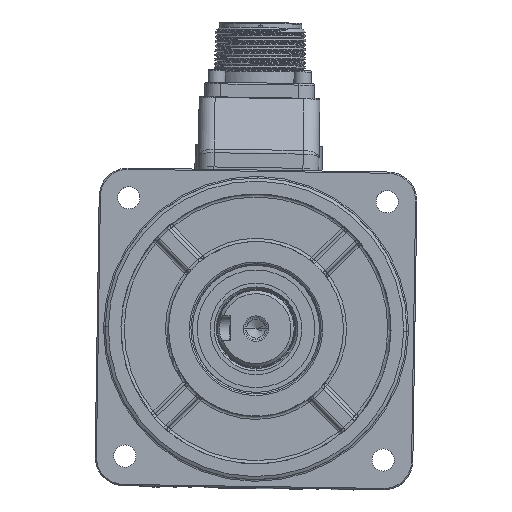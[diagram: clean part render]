
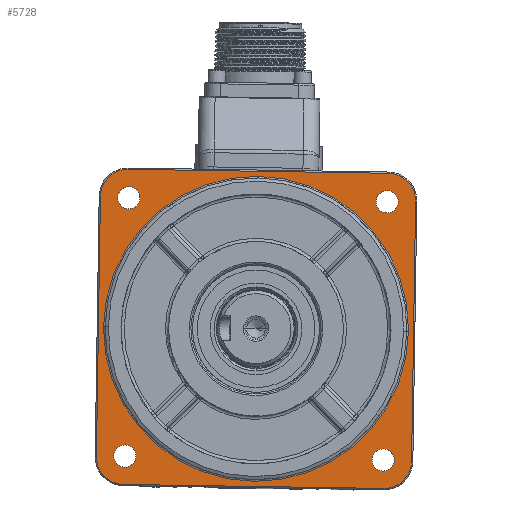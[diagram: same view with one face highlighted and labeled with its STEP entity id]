
A CAD part, top view. The second image highlights one B-rep face of the part: STEP entity #5728.
In plain terms, the highlighted planar face has unit normal (0, 0, 1) as drawn and (0, 1, 0) by its records, which use the part's own axes.
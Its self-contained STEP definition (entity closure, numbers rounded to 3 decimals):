
#165=CARTESIAN_POINT('',(-41.,0.,-41.));
#166=DIRECTION('',(0.,-1.,0.));
#167=DIRECTION('',(-1.,0.,0.));
#168=AXIS2_PLACEMENT_3D('',#165,#166,#167);
#170=DIRECTION('',(1.,0.,0.));
#171=VECTOR('',#170,82.);
#172=CARTESIAN_POINT('',(-41.,0.,
-49.6));
#173=LINE('',#172,#171);
#174=CARTESIAN_POINT('',(41.,0.,-41.));
#175=DIRECTION('',(0.,-1.,0.));
#176=DIRECTION('',(0.,0.,-1.));
#177=AXIS2_PLACEMENT_3D('',#174,#175,#176);
#179=DIRECTION('',(0.,0.,1.));
#180=VECTOR('',#179,82.);
#181=CARTESIAN_POINT('',(49.6,0.,
-41.));
#182=LINE('',#181,#180);
#183=CARTESIAN_POINT('',(41.,0.,41.));
#184=DIRECTION('',(0.,-1.,0.));
#185=DIRECTION('',(1.,0.,0.));
#186=AXIS2_PLACEMENT_3D('',#183,#184,#185);
#188=DIRECTION('',(-1.,0.,0.));
#189=VECTOR('',#188,82.);
#190=CARTESIAN_POINT('',(41.,0.,49.6));
#191=LINE('',#190,#189);
#192=CARTESIAN_POINT('',(-41.,0.,41.));
#193=DIRECTION('',(0.,-1.,0.));
#194=DIRECTION('',(0.,0.,1.));
#195=AXIS2_PLACEMENT_3D('',#192,#193,#194);
#197=DIRECTION('',(0.,0.,-1.));
#198=VECTOR('',#197,82.);
#199=CARTESIAN_POINT('',(-49.6,0.,
41.));
#200=LINE('',#199,#198);
#201=CARTESIAN_POINT('',(-40.659,0.,-40.659));
#202=DIRECTION('',(0.,1.,0.));
#203=DIRECTION('',(0.,0.,1.));
#204=AXIS2_PLACEMENT_3D('',#201,#202,#203);
#206=CARTESIAN_POINT('',(-40.659,0.,-40.659));
#207=DIRECTION('',(0.,1.,0.));
#208=DIRECTION('',(0.,0.,-1.));
#209=AXIS2_PLACEMENT_3D('',#206,#207,#208);
#211=CARTESIAN_POINT('',(-40.659,0.,40.659));
#212=DIRECTION('',(0.,1.,0.));
#213=DIRECTION('',(1.,0.,0.));
#214=AXIS2_PLACEMENT_3D('',#211,#212,#213);
#216=CARTESIAN_POINT('',(-40.659,0.,40.659));
#217=DIRECTION('',(0.,1.,0.));
#218=DIRECTION('',(-1.,0.,0.));
#219=AXIS2_PLACEMENT_3D('',#216,#217,#218);
#221=CARTESIAN_POINT('',(40.659,0.,40.659));
#222=DIRECTION('',(0.,1.,0.));
#223=DIRECTION('',(0.,0.,-1.));
#224=AXIS2_PLACEMENT_3D('',#221,#222,#223);
#226=CARTESIAN_POINT('',(40.659,0.,40.659));
#227=DIRECTION('',(0.,1.,0.));
#228=DIRECTION('',(0.,0.,1.));
#229=AXIS2_PLACEMENT_3D('',#226,#227,#228);
#231=CARTESIAN_POINT('',(0.,0.,0.));
#232=DIRECTION('',(0.,1.,0.));
#233=DIRECTION('',(-1.,0.,0.));
#234=AXIS2_PLACEMENT_3D('',#231,#232,#233);
#236=CARTESIAN_POINT('',(0.,0.,0.));
#237=DIRECTION('',(0.,1.,0.));
#238=DIRECTION('',(-1.,0.,0.006));
#239=AXIS2_PLACEMENT_3D('',#236,#237,#238);
#241=CARTESIAN_POINT('',(0.,0.,0.));
#242=DIRECTION('',(0.,1.,0.));
#243=DIRECTION('',(1.,0.,0.));
#244=AXIS2_PLACEMENT_3D('',#241,#242,#243);
#246=CARTESIAN_POINT('',(0.,0.,0.));
#247=DIRECTION('',(0.,1.,0.));
#248=DIRECTION('',(1.,0.,-0.006));
#249=AXIS2_PLACEMENT_3D('',#246,#247,#248);
#251=CARTESIAN_POINT('',(40.659,0.,-40.659));
#252=DIRECTION('',(0.,1.,0.));
#253=DIRECTION('',(-1.,0.,0.));
#254=AXIS2_PLACEMENT_3D('',#251,#252,#253);
#256=CARTESIAN_POINT('',(40.659,0.,-40.659));
#257=DIRECTION('',(0.,1.,0.));
#258=DIRECTION('',(1.,0.,0.));
#259=AXIS2_PLACEMENT_3D('',#256,#257,#258);
#5154=CARTESIAN_POINT('',(41.,0.,
49.6));
#5155=CARTESIAN_POINT('',(-41.,0.,
49.6));
#5156=VERTEX_POINT('',#5154);
#5157=VERTEX_POINT('',#5155);
#5158=CARTESIAN_POINT('',(-49.6,0.,-41.));
#5159=CARTESIAN_POINT('',(-41.,0.,-49.6));
#5160=VERTEX_POINT('',#5158);
#5161=VERTEX_POINT('',#5159);
#5162=CARTESIAN_POINT('',(41.,0.,
-49.6));
#5163=VERTEX_POINT('',#5162);
#5164=CARTESIAN_POINT('',(49.6,0.,-41.));
#5165=VERTEX_POINT('',#5164);
#5166=CARTESIAN_POINT('',(49.6,0.,41.));
#5167=VERTEX_POINT('',#5166);
#5168=CARTESIAN_POINT('',(-49.6,0.,41.));
#5169=VERTEX_POINT('',#5168);
#5170=CARTESIAN_POINT('',(-40.659,0.,-37.159));
#5171=CARTESIAN_POINT('',(-40.659,0.,-44.159));
#5172=VERTEX_POINT('',#5170);
#5173=VERTEX_POINT('',#5171);
#5174=CARTESIAN_POINT('',(-37.159,0.,40.659));
#5175=CARTESIAN_POINT('',(-44.159,0.,40.659));
#5176=VERTEX_POINT('',#5174);
#5177=VERTEX_POINT('',#5175);
#5178=CARTESIAN_POINT('',(40.659,0.,37.159));
#5179=CARTESIAN_POINT('',(40.659,0.,44.159));
#5180=VERTEX_POINT('',#5178);
#5181=VERTEX_POINT('',#5179);
#5182=CARTESIAN_POINT('',(-47.999,0.,0.3));
#5183=CARTESIAN_POINT('',(48.,0.,0.));
#5184=VERTEX_POINT('',#5182);
#5185=VERTEX_POINT('',#5183);
#5186=CARTESIAN_POINT('',(-48.,0.,0.));
#5187=VERTEX_POINT('',#5186);
#5188=CARTESIAN_POINT('',(47.999,0.,-0.3));
#5189=VERTEX_POINT('',#5188);
#5190=CARTESIAN_POINT('',(37.159,0.,-40.659));
#5191=CARTESIAN_POINT('',(44.159,0.,-40.659));
#5192=VERTEX_POINT('',#5190);
#5193=VERTEX_POINT('',#5191);
#5675=CARTESIAN_POINT('',(0.,0.,0.));
#5676=DIRECTION('',(0.,-1.,0.));
#5677=DIRECTION('',(-1.,0.,0.));
#5678=AXIS2_PLACEMENT_3D('',#5675,#5676,#5677);
#5679=PLANE('',#5678);
#5681=ORIENTED_EDGE('',*,*,#5680,.T.);
#5683=ORIENTED_EDGE('',*,*,#5682,.T.);
#5685=ORIENTED_EDGE('',*,*,#5684,.T.);
#5687=ORIENTED_EDGE('',*,*,#5686,.T.);
#5689=ORIENTED_EDGE('',*,*,#5688,.T.);
#5691=ORIENTED_EDGE('',*,*,#5690,.T.);
#5693=ORIENTED_EDGE('',*,*,#5692,.T.);
#5695=ORIENTED_EDGE('',*,*,#5694,.T.);
#5696=EDGE_LOOP('',(#5681,#5683,#5685,#5687,#5689,#5691,#5693,#5695));
#5697=FACE_OUTER_BOUND('',#5696,.F.);
#5699=ORIENTED_EDGE('',*,*,#5698,.T.);
#5701=ORIENTED_EDGE('',*,*,#5700,.T.);
#5702=EDGE_LOOP('',(#5699,#5701));
#5703=FACE_BOUND('',#5702,.F.);
#5705=ORIENTED_EDGE('',*,*,#5704,.T.);
#5707=ORIENTED_EDGE('',*,*,#5706,.T.);
#5708=EDGE_LOOP('',(#5705,#5707));
#5709=FACE_BOUND('',#5708,.F.);
#5711=ORIENTED_EDGE('',*,*,#5710,.T.);
#5713=ORIENTED_EDGE('',*,*,#5712,.T.);
#5714=EDGE_LOOP('',(#5711,#5713));
#5715=FACE_BOUND('',#5714,.F.);
#5716=ORIENTED_EDGE('',*,*,#5652,.T.);
#5717=ORIENTED_EDGE('',*,*,#5650,.T.);
#5718=ORIENTED_EDGE('',*,*,#5669,.T.);
#5719=ORIENTED_EDGE('',*,*,#5667,.T.);
#5720=EDGE_LOOP('',(#5716,#5717,#5718,#5719));
#5721=FACE_BOUND('',#5720,.F.);
#5723=ORIENTED_EDGE('',*,*,#5722,.T.);
#5725=ORIENTED_EDGE('',*,*,#5724,.T.);
#5726=EDGE_LOOP('',(#5723,#5725));
#5727=FACE_BOUND('',#5726,.F.);
#5728=ADVANCED_FACE('',(#5697,#5703,#5709,#5715,#5721,#5727),#5679,.F.);
#169=CIRCLE('',#168,8.6);
#178=CIRCLE('',#177,8.6);
#187=CIRCLE('',#186,8.6);
#196=CIRCLE('',#195,8.6);
#205=CIRCLE('',#204,3.5);
#210=CIRCLE('',#209,3.5);
#215=CIRCLE('',#214,3.5);
#220=CIRCLE('',#219,3.5);
#225=CIRCLE('',#224,3.5);
#230=CIRCLE('',#229,3.5);
#235=CIRCLE('',#234,48.);
#240=CIRCLE('',#239,48.);
#245=CIRCLE('',#244,48.);
#250=CIRCLE('',#249,48.);
#255=CIRCLE('',#254,3.5);
#260=CIRCLE('',#259,3.5);
#5650=EDGE_CURVE('',#5184,#5185,#240,.T.);
#5652=EDGE_CURVE('',#5187,#5184,#235,.T.);
#5667=EDGE_CURVE('',#5189,#5187,#250,.T.);
#5669=EDGE_CURVE('',#5185,#5189,#245,.T.);
#5680=EDGE_CURVE('',#5160,#5161,#169,.T.);
#5682=EDGE_CURVE('',#5161,#5163,#173,.T.);
#5684=EDGE_CURVE('',#5163,#5165,#178,.T.);
#5686=EDGE_CURVE('',#5165,#5167,#182,.T.);
#5688=EDGE_CURVE('',#5167,#5156,#187,.T.);
#5690=EDGE_CURVE('',#5156,#5157,#191,.T.);
#5692=EDGE_CURVE('',#5157,#5169,#196,.T.);
#5694=EDGE_CURVE('',#5169,#5160,#200,.T.);
#5698=EDGE_CURVE('',#5172,#5173,#205,.T.);
#5700=EDGE_CURVE('',#5173,#5172,#210,.T.);
#5704=EDGE_CURVE('',#5176,#5177,#215,.T.);
#5706=EDGE_CURVE('',#5177,#5176,#220,.T.);
#5710=EDGE_CURVE('',#5180,#5181,#225,.T.);
#5712=EDGE_CURVE('',#5181,#5180,#230,.T.);
#5722=EDGE_CURVE('',#5192,#5193,#255,.T.);
#5724=EDGE_CURVE('',#5193,#5192,#260,.T.);
